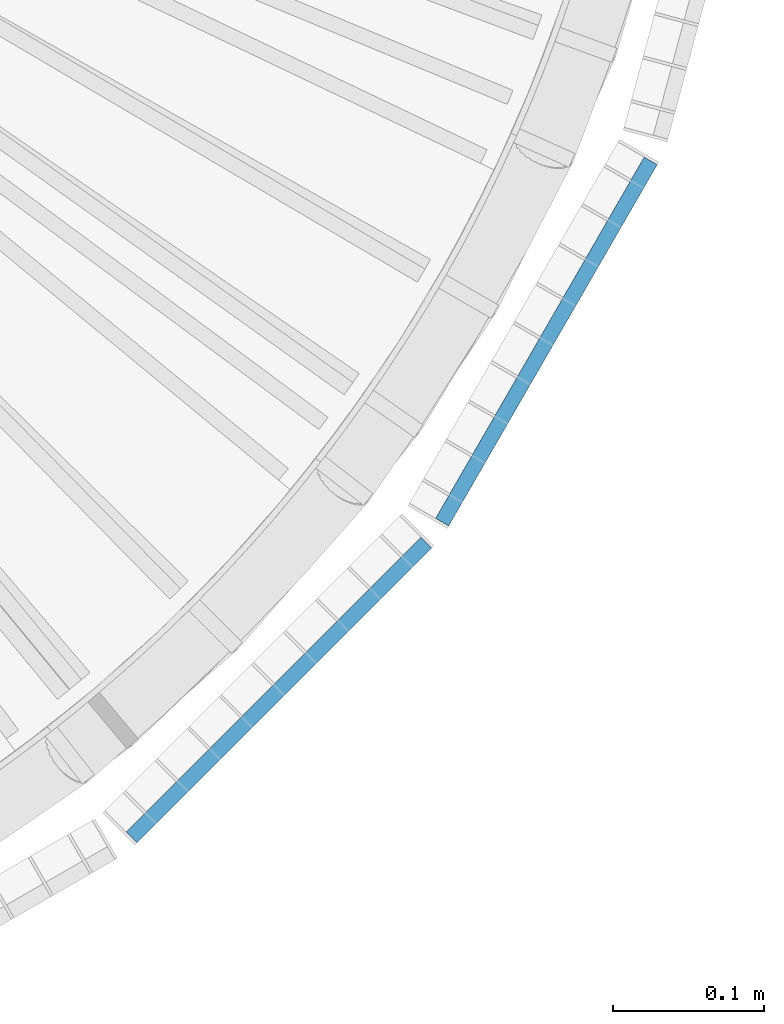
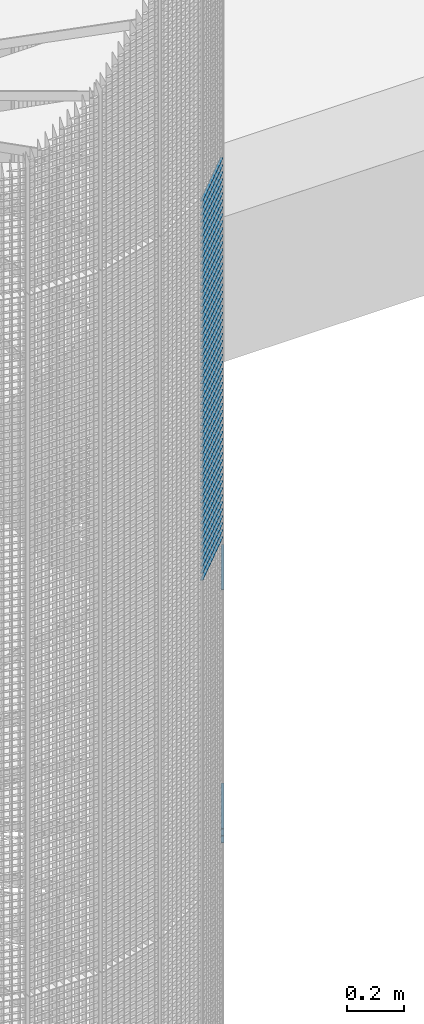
# One storey, part 243 of 1148: 59 beams, 2 elements without a shape of their own.
"""IFC2X3 building model written with IfcOpenShell, lengths in millimetres."""

from ifc_helpers import new_model, si_unit, frame, origin_with_axes, origin_2d_with_axis, place, context, subcontext, project, spatial, rectangle, extrude, material, type_object, element, aggregate, save


model = new_model("IFC2X3")

# Units and contexts
model_context = context("Model", 3, precision=1e-05, world=origin_with_axes())
body_context = subcontext(model_context, "Body", "Model", "MODEL_VIEW")
ifc_project = project(units=[si_unit("LENGTHUNIT", "METRE", prefix="MILLI"), si_unit("AREAUNIT", "SQUARE_METRE"), si_unit("VOLUMEUNIT", "CUBIC_METRE"), si_unit("MASSUNIT", "GRAM", prefix="KILO"), si_unit("TIMEUNIT", "SECOND"), si_unit("PLANEANGLEUNIT", "RADIAN"), si_unit("SOLIDANGLEUNIT", "STERADIAN"), si_unit("THERMODYNAMICTEMPERATUREUNIT", "DEGREE_CELSIUS"), si_unit("LUMINOUSINTENSITYUNIT", "LUMEN")], contexts=[model_context])

# Site, building, storey
site_placement = place(None, origin_with_axes())
site = spatial("IfcSite", under=ifc_project, at=site_placement, Name="Undefined", CompositionType="ELEMENT")
building_placement = place(site_placement, origin_with_axes())
building = spatial("IfcBuilding", under=site, at=building_placement, Name="Undefined", CompositionType="ELEMENT")
storey_placement = place(building_placement, origin_with_axes())
storey = spatial("IfcBuildingStorey", under=building, at=storey_placement, Name="Undefined", CompositionType="ELEMENT", Elevation=0.0)

# Assembly, beams
assembly_1_placement = place(storey_placement, origin_with_axes())
assembly_1 = element("IfcElementAssembly", 1, at=assembly_1_placement, inside=storey, Name="BORDURE", AssemblyPlace="NOTDEFINED", PredefinedType="NOTDEFINED")
ifc_material = material(Name="STEEL/S235JR")
beam_type = type_object("IfcBeamType", Name="PL2*10", PredefinedType="NOTDEFINED")
beam_1_placement = place(assembly_1_placement, frame((895.30396491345, -676.248044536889, 6090.0), z_axis=(0.866025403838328, -0.49999999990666, 0.0), x_axis=(0.49999999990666, 0.866025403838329, 0.0)))
beam_1 = element("IfcBeam", 2, at=beam_1_placement, type_object=beam_type, material=ifc_material, Name="ENTRETOISE", context=body_context, shape_type="SweptSolid", body=[
    extrude(rectangle(XDim=2.0, YDim=10.0, at=origin_2d_with_axis()), frame((275.999999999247, 9.09494701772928e-13, 1.53210777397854e-14), z_axis=(-1.0, 0.0, 0.0), x_axis=(0.0, -1.0, 0.0)), (0.0, 0.0, 1.0), 276.0),
])
beam_2_placement = place(assembly_1_placement, frame((895.30396491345, -676.248044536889, 6060.0), z_axis=(0.866025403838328, -0.49999999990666, 0.0), x_axis=(0.49999999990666, 0.866025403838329, 0.0)))
beam_2 = element("IfcBeam", 3, at=beam_2_placement, type_object=beam_type, material=ifc_material, Name="ENTRETOISE", context=body_context, shape_type="SweptSolid", body=[
    extrude(rectangle(XDim=2.0, YDim=10.0, at=origin_2d_with_axis()), frame((275.999999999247, 9.09494701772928e-13, 1.53210777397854e-14), z_axis=(-1.0, 0.0, 0.0), x_axis=(0.0, -1.0, 0.0)), (0.0, 0.0, 1.0), 276.0),
])
beam_3_placement = place(assembly_1_placement, frame((895.303964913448, -676.248044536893, 7110.0), z_axis=(0.866025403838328, -0.49999999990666, 0.0), x_axis=(0.49999999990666, 0.866025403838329, 0.0)))
beam_3 = element("IfcBeam", 4, at=beam_3_placement, type_object=beam_type, material=ifc_material, Name="ENTRETOISE", context=body_context, shape_type="SweptSolid", body=[
    extrude(rectangle(XDim=2.0, YDim=10.0, at=origin_2d_with_axis()), frame((275.999999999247, 9.09494701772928e-13, 1.53210777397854e-14), z_axis=(-1.0, 0.0, 0.0), x_axis=(0.0, -1.0, 0.0)), (0.0, 0.0, 1.0), 276.0),
])
beam_4_placement = place(assembly_1_placement, frame((895.30396491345, -676.248044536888, 6030.0), z_axis=(0.866025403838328, -0.49999999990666, 0.0), x_axis=(0.49999999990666, 0.866025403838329, 0.0)))
beam_4 = element("IfcBeam", 5, at=beam_4_placement, type_object=beam_type, material=ifc_material, Name="ENTRETOISE", context=body_context, shape_type="SweptSolid", body=[
    extrude(rectangle(XDim=2.0, YDim=10.0, at=origin_2d_with_axis()), frame((275.999999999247, 9.09494701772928e-13, 1.53210777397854e-14), z_axis=(-1.0, 0.0, 0.0), x_axis=(0.0, -1.0, 0.0)), (0.0, 0.0, 1.0), 276.0),
])
aggregate(assembly_1, [beam_1, beam_2, beam_3, beam_4])

assembly_2_placement = place(storey_placement, origin_with_axes())
assembly_2 = element("IfcElementAssembly", 6, at=assembly_2_placement, inside=storey, Name="BORDURE", AssemblyPlace="NOTDEFINED", PredefinedType="NOTDEFINED")
beam_5_placement = place(assembly_2_placement, frame((689.771348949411, -884.927168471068, 8970.0), z_axis=(0.707106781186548, -0.707106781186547, 0.0), x_axis=(0.707106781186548, 0.707106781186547, 0.0)))
beam_5 = element("IfcBeam", 7, at=beam_5_placement, type_object=beam_type, material=ifc_material, Name="ENTRETOISE", context=body_context, shape_type="SweptSolid", body=[
    extrude(rectangle(XDim=2.0, YDim=10.0, at=origin_2d_with_axis()), frame((275.999999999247, 9.09494701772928e-13, 1.53210777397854e-14), z_axis=(-1.0, 0.0, 0.0), x_axis=(0.0, -1.0, 0.0)), (0.0, 0.0, 1.0), 276.0),
])
beam_6_placement = place(assembly_2_placement, frame((689.771348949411, -884.927168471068, 8940.0), z_axis=(0.707106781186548, -0.707106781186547, 0.0), x_axis=(0.707106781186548, 0.707106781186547, 0.0)))
beam_6 = element("IfcBeam", 8, at=beam_6_placement, type_object=beam_type, material=ifc_material, Name="ENTRETOISE", context=body_context, shape_type="SweptSolid", body=[
    extrude(rectangle(XDim=2.0, YDim=10.0, at=origin_2d_with_axis()), frame((275.999999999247, 9.09494701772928e-13, 1.53210777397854e-14), z_axis=(-1.0, 0.0, 0.0), x_axis=(0.0, -1.0, 0.0)), (0.0, 0.0, 1.0), 276.0),
])
beam_7_placement = place(assembly_2_placement, frame((689.771348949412, -884.927168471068, 8910.0), z_axis=(0.707106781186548, -0.707106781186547, 0.0), x_axis=(0.707106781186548, 0.707106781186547, 0.0)))
beam_7 = element("IfcBeam", 9, at=beam_7_placement, type_object=beam_type, material=ifc_material, Name="ENTRETOISE", context=body_context, shape_type="SweptSolid", body=[
    extrude(rectangle(XDim=2.0, YDim=10.0, at=origin_2d_with_axis()), frame((275.999999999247, 9.09494701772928e-13, 1.53210777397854e-14), z_axis=(-1.0, 0.0, 0.0), x_axis=(0.0, -1.0, 0.0)), (0.0, 0.0, 1.0), 276.0),
])
beam_8_placement = place(assembly_2_placement, frame((689.771348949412, -884.927168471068, 8880.0), z_axis=(0.707106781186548, -0.707106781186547, 0.0), x_axis=(0.707106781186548, 0.707106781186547, 0.0)))
beam_8 = element("IfcBeam", 10, at=beam_8_placement, type_object=beam_type, material=ifc_material, Name="ENTRETOISE", context=body_context, shape_type="SweptSolid", body=[
    extrude(rectangle(XDim=2.0, YDim=10.0, at=origin_2d_with_axis()), frame((275.999999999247, 9.09494701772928e-13, 1.53210777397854e-14), z_axis=(-1.0, 0.0, 0.0), x_axis=(0.0, -1.0, 0.0)), (0.0, 0.0, 1.0), 276.0),
])
beam_9_placement = place(assembly_2_placement, frame((689.771348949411, -884.927168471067, 8850.0), z_axis=(0.707106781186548, -0.707106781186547, 0.0), x_axis=(0.707106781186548, 0.707106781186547, 0.0)))
beam_9 = element("IfcBeam", 11, at=beam_9_placement, type_object=beam_type, material=ifc_material, Name="ENTRETOISE", context=body_context, shape_type="SweptSolid", body=[
    extrude(rectangle(XDim=2.0, YDim=10.0, at=origin_2d_with_axis()), frame((275.999999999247, 9.09494701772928e-13, 1.53210777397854e-14), z_axis=(-1.0, 0.0, 0.0), x_axis=(0.0, -1.0, 0.0)), (0.0, 0.0, 1.0), 276.0),
])
beam_10_placement = place(assembly_2_placement, frame((689.771348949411, -884.927168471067, 8820.0), z_axis=(0.707106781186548, -0.707106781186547, 0.0), x_axis=(0.707106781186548, 0.707106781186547, 0.0)))
beam_10 = element("IfcBeam", 12, at=beam_10_placement, type_object=beam_type, material=ifc_material, Name="ENTRETOISE", context=body_context, shape_type="SweptSolid", body=[
    extrude(rectangle(XDim=2.0, YDim=10.0, at=origin_2d_with_axis()), frame((275.999999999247, 9.09494701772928e-13, 1.53210777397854e-14), z_axis=(-1.0, 0.0, 0.0), x_axis=(0.0, -1.0, 0.0)), (0.0, 0.0, 1.0), 276.0),
])
beam_11_placement = place(assembly_2_placement, frame((689.771348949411, -884.927168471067, 8790.0), z_axis=(0.707106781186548, -0.707106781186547, 0.0), x_axis=(0.707106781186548, 0.707106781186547, 0.0)))
beam_11 = element("IfcBeam", 13, at=beam_11_placement, type_object=beam_type, material=ifc_material, Name="ENTRETOISE", context=body_context, shape_type="SweptSolid", body=[
    extrude(rectangle(XDim=2.0, YDim=10.0, at=origin_2d_with_axis()), frame((275.999999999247, 9.09494701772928e-13, 1.53210777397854e-14), z_axis=(-1.0, 0.0, 0.0), x_axis=(0.0, -1.0, 0.0)), (0.0, 0.0, 1.0), 276.0),
])
beam_12_placement = place(assembly_2_placement, frame((689.771348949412, -884.927168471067, 8760.0), z_axis=(0.707106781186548, -0.707106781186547, 0.0), x_axis=(0.707106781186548, 0.707106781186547, 0.0)))
beam_12 = element("IfcBeam", 14, at=beam_12_placement, type_object=beam_type, material=ifc_material, Name="ENTRETOISE", context=body_context, shape_type="SweptSolid", body=[
    extrude(rectangle(XDim=2.0, YDim=10.0, at=origin_2d_with_axis()), frame((275.999999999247, 9.09494701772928e-13, 1.53210777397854e-14), z_axis=(-1.0, 0.0, 0.0), x_axis=(0.0, -1.0, 0.0)), (0.0, 0.0, 1.0), 276.0),
])
beam_13_placement = place(assembly_2_placement, frame((689.771348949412, -884.927168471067, 8730.0), z_axis=(0.707106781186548, -0.707106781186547, 0.0), x_axis=(0.707106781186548, 0.707106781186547, 0.0)))
beam_13 = element("IfcBeam", 15, at=beam_13_placement, type_object=beam_type, material=ifc_material, Name="ENTRETOISE", context=body_context, shape_type="SweptSolid", body=[
    extrude(rectangle(XDim=2.0, YDim=10.0, at=origin_2d_with_axis()), frame((275.999999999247, 9.09494701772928e-13, 1.53210777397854e-14), z_axis=(-1.0, 0.0, 0.0), x_axis=(0.0, -1.0, 0.0)), (0.0, 0.0, 1.0), 276.0),
])
beam_14_placement = place(assembly_2_placement, frame((689.771348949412, -884.927168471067, 8700.0), z_axis=(0.707106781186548, -0.707106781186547, 0.0), x_axis=(0.707106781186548, 0.707106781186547, 0.0)))
beam_14 = element("IfcBeam", 16, at=beam_14_placement, type_object=beam_type, material=ifc_material, Name="ENTRETOISE", context=body_context, shape_type="SweptSolid", body=[
    extrude(rectangle(XDim=2.0, YDim=10.0, at=origin_2d_with_axis()), frame((275.999999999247, 9.09494701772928e-13, 1.53210777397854e-14), z_axis=(-1.0, 0.0, 0.0), x_axis=(0.0, -1.0, 0.0)), (0.0, 0.0, 1.0), 276.0),
])
beam_15_placement = place(assembly_2_placement, frame((689.771348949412, -884.927168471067, 8670.0), z_axis=(0.707106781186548, -0.707106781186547, 0.0), x_axis=(0.707106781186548, 0.707106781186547, 0.0)))
beam_15 = element("IfcBeam", 17, at=beam_15_placement, type_object=beam_type, material=ifc_material, Name="ENTRETOISE", context=body_context, shape_type="SweptSolid", body=[
    extrude(rectangle(XDim=2.0, YDim=10.0, at=origin_2d_with_axis()), frame((275.999999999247, 9.09494701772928e-13, 1.53210777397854e-14), z_axis=(-1.0, 0.0, 0.0), x_axis=(0.0, -1.0, 0.0)), (0.0, 0.0, 1.0), 276.0),
])
beam_16_placement = place(assembly_2_placement, frame((689.771348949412, -884.927168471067, 8640.0), z_axis=(0.707106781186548, -0.707106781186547, 0.0), x_axis=(0.707106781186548, 0.707106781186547, 0.0)))
beam_16 = element("IfcBeam", 18, at=beam_16_placement, type_object=beam_type, material=ifc_material, Name="ENTRETOISE", context=body_context, shape_type="SweptSolid", body=[
    extrude(rectangle(XDim=2.0, YDim=10.0, at=origin_2d_with_axis()), frame((275.999999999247, 9.09494701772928e-13, 1.53210777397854e-14), z_axis=(-1.0, 0.0, 0.0), x_axis=(0.0, -1.0, 0.0)), (0.0, 0.0, 1.0), 276.0),
])
beam_17_placement = place(assembly_2_placement, frame((689.771348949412, -884.927168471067, 8610.0), z_axis=(0.707106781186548, -0.707106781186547, 0.0), x_axis=(0.707106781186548, 0.707106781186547, 0.0)))
beam_17 = element("IfcBeam", 19, at=beam_17_placement, type_object=beam_type, material=ifc_material, Name="ENTRETOISE", context=body_context, shape_type="SweptSolid", body=[
    extrude(rectangle(XDim=2.0, YDim=10.0, at=origin_2d_with_axis()), frame((275.999999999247, 9.09494701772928e-13, 1.53210777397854e-14), z_axis=(-1.0, 0.0, 0.0), x_axis=(0.0, -1.0, 0.0)), (0.0, 0.0, 1.0), 276.0),
])
beam_18_placement = place(assembly_2_placement, frame((689.771348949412, -884.927168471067, 8580.0), z_axis=(0.707106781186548, -0.707106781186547, 0.0), x_axis=(0.707106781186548, 0.707106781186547, 0.0)))
beam_18 = element("IfcBeam", 20, at=beam_18_placement, type_object=beam_type, material=ifc_material, Name="ENTRETOISE", context=body_context, shape_type="SweptSolid", body=[
    extrude(rectangle(XDim=2.0, YDim=10.0, at=origin_2d_with_axis()), frame((275.999999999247, 9.09494701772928e-13, 1.53210777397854e-14), z_axis=(-1.0, 0.0, 0.0), x_axis=(0.0, -1.0, 0.0)), (0.0, 0.0, 1.0), 276.0),
])
beam_19_placement = place(assembly_2_placement, frame((689.771348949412, -884.927168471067, 8550.0), z_axis=(0.707106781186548, -0.707106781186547, 0.0), x_axis=(0.707106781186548, 0.707106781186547, 0.0)))
beam_19 = element("IfcBeam", 21, at=beam_19_placement, type_object=beam_type, material=ifc_material, Name="ENTRETOISE", context=body_context, shape_type="SweptSolid", body=[
    extrude(rectangle(XDim=2.0, YDim=10.0, at=origin_2d_with_axis()), frame((275.999999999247, 9.09494701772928e-13, 1.53210777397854e-14), z_axis=(-1.0, 0.0, 0.0), x_axis=(0.0, -1.0, 0.0)), (0.0, 0.0, 1.0), 276.0),
])
beam_20_placement = place(assembly_2_placement, frame((689.771348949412, -884.927168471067, 8520.0), z_axis=(0.707106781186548, -0.707106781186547, 0.0), x_axis=(0.707106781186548, 0.707106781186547, 0.0)))
beam_20 = element("IfcBeam", 22, at=beam_20_placement, type_object=beam_type, material=ifc_material, Name="ENTRETOISE", context=body_context, shape_type="SweptSolid", body=[
    extrude(rectangle(XDim=2.0, YDim=10.0, at=origin_2d_with_axis()), frame((275.999999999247, 9.09494701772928e-13, 1.53210777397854e-14), z_axis=(-1.0, 0.0, 0.0), x_axis=(0.0, -1.0, 0.0)), (0.0, 0.0, 1.0), 276.0),
])
beam_21_placement = place(assembly_2_placement, frame((689.771348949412, -884.927168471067, 8490.0), z_axis=(0.707106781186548, -0.707106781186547, 0.0), x_axis=(0.707106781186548, 0.707106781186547, 0.0)))
beam_21 = element("IfcBeam", 23, at=beam_21_placement, type_object=beam_type, material=ifc_material, Name="ENTRETOISE", context=body_context, shape_type="SweptSolid", body=[
    extrude(rectangle(XDim=2.0, YDim=10.0, at=origin_2d_with_axis()), frame((275.999999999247, 9.09494701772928e-13, 1.53210777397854e-14), z_axis=(-1.0, 0.0, 0.0), x_axis=(0.0, -1.0, 0.0)), (0.0, 0.0, 1.0), 276.0),
])
beam_22_placement = place(assembly_2_placement, frame((689.771348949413, -884.927168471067, 8460.0), z_axis=(0.707106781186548, -0.707106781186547, 0.0), x_axis=(0.707106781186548, 0.707106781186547, 0.0)))
beam_22 = element("IfcBeam", 24, at=beam_22_placement, type_object=beam_type, material=ifc_material, Name="ENTRETOISE", context=body_context, shape_type="SweptSolid", body=[
    extrude(rectangle(XDim=2.0, YDim=10.0, at=origin_2d_with_axis()), frame((275.999999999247, 9.09494701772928e-13, 1.53210777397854e-14), z_axis=(-1.0, 0.0, 0.0), x_axis=(0.0, -1.0, 0.0)), (0.0, 0.0, 1.0), 276.0),
])
beam_23_placement = place(assembly_2_placement, frame((689.771348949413, -884.927168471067, 8430.0), z_axis=(0.707106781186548, -0.707106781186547, 0.0), x_axis=(0.707106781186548, 0.707106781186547, 0.0)))
beam_23 = element("IfcBeam", 25, at=beam_23_placement, type_object=beam_type, material=ifc_material, Name="ENTRETOISE", context=body_context, shape_type="SweptSolid", body=[
    extrude(rectangle(XDim=2.0, YDim=10.0, at=origin_2d_with_axis()), frame((275.999999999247, 9.09494701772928e-13, 1.53210777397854e-14), z_axis=(-1.0, 0.0, 0.0), x_axis=(0.0, -1.0, 0.0)), (0.0, 0.0, 1.0), 276.0),
])
beam_24_placement = place(assembly_2_placement, frame((689.771348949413, -884.927168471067, 8400.0), z_axis=(0.707106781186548, -0.707106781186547, 0.0), x_axis=(0.707106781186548, 0.707106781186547, 0.0)))
beam_24 = element("IfcBeam", 26, at=beam_24_placement, type_object=beam_type, material=ifc_material, Name="ENTRETOISE", context=body_context, shape_type="SweptSolid", body=[
    extrude(rectangle(XDim=2.0, YDim=10.0, at=origin_2d_with_axis()), frame((275.999999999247, 9.09494701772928e-13, 1.53210777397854e-14), z_axis=(-1.0, 0.0, 0.0), x_axis=(0.0, -1.0, 0.0)), (0.0, 0.0, 1.0), 276.0),
])
beam_25_placement = place(assembly_2_placement, frame((689.771348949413, -884.927168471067, 8370.0), z_axis=(0.707106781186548, -0.707106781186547, 0.0), x_axis=(0.707106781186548, 0.707106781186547, 0.0)))
beam_25 = element("IfcBeam", 27, at=beam_25_placement, type_object=beam_type, material=ifc_material, Name="ENTRETOISE", context=body_context, shape_type="SweptSolid", body=[
    extrude(rectangle(XDim=2.0, YDim=10.0, at=origin_2d_with_axis()), frame((275.999999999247, 9.09494701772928e-13, 1.53210777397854e-14), z_axis=(-1.0, 0.0, 0.0), x_axis=(0.0, -1.0, 0.0)), (0.0, 0.0, 1.0), 276.0),
])
beam_26_placement = place(assembly_2_placement, frame((689.771348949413, -884.927168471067, 8340.0), z_axis=(0.707106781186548, -0.707106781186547, 0.0), x_axis=(0.707106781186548, 0.707106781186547, 0.0)))
beam_26 = element("IfcBeam", 28, at=beam_26_placement, type_object=beam_type, material=ifc_material, Name="ENTRETOISE", context=body_context, shape_type="SweptSolid", body=[
    extrude(rectangle(XDim=2.0, YDim=10.0, at=origin_2d_with_axis()), frame((275.999999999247, 9.09494701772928e-13, 1.53210777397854e-14), z_axis=(-1.0, 0.0, 0.0), x_axis=(0.0, -1.0, 0.0)), (0.0, 0.0, 1.0), 276.0),
])
beam_27_placement = place(assembly_2_placement, frame((689.771348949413, -884.927168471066, 8310.0), z_axis=(0.707106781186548, -0.707106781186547, 0.0), x_axis=(0.707106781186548, 0.707106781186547, 0.0)))
beam_27 = element("IfcBeam", 29, at=beam_27_placement, type_object=beam_type, material=ifc_material, Name="ENTRETOISE", context=body_context, shape_type="SweptSolid", body=[
    extrude(rectangle(XDim=2.0, YDim=10.0, at=origin_2d_with_axis()), frame((275.999999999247, 9.09494701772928e-13, 1.53210777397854e-14), z_axis=(-1.0, 0.0, 0.0), x_axis=(0.0, -1.0, 0.0)), (0.0, 0.0, 1.0), 276.0),
])
beam_28_placement = place(assembly_2_placement, frame((689.771348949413, -884.927168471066, 8280.0), z_axis=(0.707106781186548, -0.707106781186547, 0.0), x_axis=(0.707106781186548, 0.707106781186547, 0.0)))
beam_28 = element("IfcBeam", 30, at=beam_28_placement, type_object=beam_type, material=ifc_material, Name="ENTRETOISE", context=body_context, shape_type="SweptSolid", body=[
    extrude(rectangle(XDim=2.0, YDim=10.0, at=origin_2d_with_axis()), frame((275.999999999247, 9.09494701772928e-13, 1.53210777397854e-14), z_axis=(-1.0, 0.0, 0.0), x_axis=(0.0, -1.0, 0.0)), (0.0, 0.0, 1.0), 276.0),
])
beam_29_placement = place(assembly_2_placement, frame((689.771348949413, -884.927168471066, 8250.0), z_axis=(0.707106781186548, -0.707106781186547, 0.0), x_axis=(0.707106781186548, 0.707106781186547, 0.0)))
beam_29 = element("IfcBeam", 31, at=beam_29_placement, type_object=beam_type, material=ifc_material, Name="ENTRETOISE", context=body_context, shape_type="SweptSolid", body=[
    extrude(rectangle(XDim=2.0, YDim=10.0, at=origin_2d_with_axis()), frame((275.999999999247, 9.09494701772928e-13, 1.53210777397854e-14), z_axis=(-1.0, 0.0, 0.0), x_axis=(0.0, -1.0, 0.0)), (0.0, 0.0, 1.0), 276.0),
])
beam_30_placement = place(assembly_2_placement, frame((689.771348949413, -884.927168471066, 8220.0), z_axis=(0.707106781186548, -0.707106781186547, 0.0), x_axis=(0.707106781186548, 0.707106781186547, 0.0)))
beam_30 = element("IfcBeam", 32, at=beam_30_placement, type_object=beam_type, material=ifc_material, Name="ENTRETOISE", context=body_context, shape_type="SweptSolid", body=[
    extrude(rectangle(XDim=2.0, YDim=10.0, at=origin_2d_with_axis()), frame((275.999999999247, 9.09494701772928e-13, 1.53210777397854e-14), z_axis=(-1.0, 0.0, 0.0), x_axis=(0.0, -1.0, 0.0)), (0.0, 0.0, 1.0), 276.0),
])
beam_31_placement = place(assembly_2_placement, frame((689.771348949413, -884.927168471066, 8190.0), z_axis=(0.707106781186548, -0.707106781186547, 0.0), x_axis=(0.707106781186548, 0.707106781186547, 0.0)))
beam_31 = element("IfcBeam", 33, at=beam_31_placement, type_object=beam_type, material=ifc_material, Name="ENTRETOISE", context=body_context, shape_type="SweptSolid", body=[
    extrude(rectangle(XDim=2.0, YDim=10.0, at=origin_2d_with_axis()), frame((275.999999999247, 9.09494701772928e-13, 1.53210777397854e-14), z_axis=(-1.0, 0.0, 0.0), x_axis=(0.0, -1.0, 0.0)), (0.0, 0.0, 1.0), 276.0),
])
beam_32_placement = place(assembly_2_placement, frame((689.771348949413, -884.927168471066, 8160.0), z_axis=(0.707106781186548, -0.707106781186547, 0.0), x_axis=(0.707106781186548, 0.707106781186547, 0.0)))
beam_32 = element("IfcBeam", 34, at=beam_32_placement, type_object=beam_type, material=ifc_material, Name="ENTRETOISE", context=body_context, shape_type="SweptSolid", body=[
    extrude(rectangle(XDim=2.0, YDim=10.0, at=origin_2d_with_axis()), frame((275.999999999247, 9.09494701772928e-13, 1.53210777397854e-14), z_axis=(-1.0, 0.0, 0.0), x_axis=(0.0, -1.0, 0.0)), (0.0, 0.0, 1.0), 276.0),
])
beam_33_placement = place(assembly_2_placement, frame((689.771348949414, -884.927168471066, 8130.0), z_axis=(0.707106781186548, -0.707106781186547, 0.0), x_axis=(0.707106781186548, 0.707106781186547, 0.0)))
beam_33 = element("IfcBeam", 35, at=beam_33_placement, type_object=beam_type, material=ifc_material, Name="ENTRETOISE", context=body_context, shape_type="SweptSolid", body=[
    extrude(rectangle(XDim=2.0, YDim=10.0, at=origin_2d_with_axis()), frame((275.999999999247, 9.09494701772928e-13, 1.53210777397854e-14), z_axis=(-1.0, 0.0, 0.0), x_axis=(0.0, -1.0, 0.0)), (0.0, 0.0, 1.0), 276.0),
])
beam_34_placement = place(assembly_2_placement, frame((689.771348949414, -884.927168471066, 8100.0), z_axis=(0.707106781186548, -0.707106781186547, 0.0), x_axis=(0.707106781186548, 0.707106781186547, 0.0)))
beam_34 = element("IfcBeam", 36, at=beam_34_placement, type_object=beam_type, material=ifc_material, Name="ENTRETOISE", context=body_context, shape_type="SweptSolid", body=[
    extrude(rectangle(XDim=2.0, YDim=10.0, at=origin_2d_with_axis()), frame((275.999999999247, 9.09494701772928e-13, 1.53210777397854e-14), z_axis=(-1.0, 0.0, 0.0), x_axis=(0.0, -1.0, 0.0)), (0.0, 0.0, 1.0), 276.0),
])
beam_35_placement = place(assembly_2_placement, frame((689.771348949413, -884.927168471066, 8070.0), z_axis=(0.707106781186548, -0.707106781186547, 0.0), x_axis=(0.707106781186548, 0.707106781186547, 0.0)))
beam_35 = element("IfcBeam", 37, at=beam_35_placement, type_object=beam_type, material=ifc_material, Name="ENTRETOISE", context=body_context, shape_type="SweptSolid", body=[
    extrude(rectangle(XDim=2.0, YDim=10.0, at=origin_2d_with_axis()), frame((275.999999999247, 9.09494701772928e-13, 1.53210777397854e-14), z_axis=(-1.0, 0.0, 0.0), x_axis=(0.0, -1.0, 0.0)), (0.0, 0.0, 1.0), 276.0),
])
beam_36_placement = place(assembly_2_placement, frame((689.771348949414, -884.927168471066, 8040.0), z_axis=(0.707106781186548, -0.707106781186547, 0.0), x_axis=(0.707106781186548, 0.707106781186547, 0.0)))
beam_36 = element("IfcBeam", 38, at=beam_36_placement, type_object=beam_type, material=ifc_material, Name="ENTRETOISE", context=body_context, shape_type="SweptSolid", body=[
    extrude(rectangle(XDim=2.0, YDim=10.0, at=origin_2d_with_axis()), frame((275.999999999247, 9.09494701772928e-13, 1.53210777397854e-14), z_axis=(-1.0, 0.0, 0.0), x_axis=(0.0, -1.0, 0.0)), (0.0, 0.0, 1.0), 276.0),
])
beam_37_placement = place(assembly_2_placement, frame((689.771348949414, -884.927168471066, 8010.0), z_axis=(0.707106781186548, -0.707106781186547, 0.0), x_axis=(0.707106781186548, 0.707106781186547, 0.0)))
beam_37 = element("IfcBeam", 39, at=beam_37_placement, type_object=beam_type, material=ifc_material, Name="ENTRETOISE", context=body_context, shape_type="SweptSolid", body=[
    extrude(rectangle(XDim=2.0, YDim=10.0, at=origin_2d_with_axis()), frame((275.999999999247, 9.09494701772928e-13, 1.53210777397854e-14), z_axis=(-1.0, 0.0, 0.0), x_axis=(0.0, -1.0, 0.0)), (0.0, 0.0, 1.0), 276.0),
])
beam_38_placement = place(assembly_2_placement, frame((689.771348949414, -884.927168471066, 7980.0), z_axis=(0.707106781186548, -0.707106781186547, 0.0), x_axis=(0.707106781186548, 0.707106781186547, 0.0)))
beam_38 = element("IfcBeam", 40, at=beam_38_placement, type_object=beam_type, material=ifc_material, Name="ENTRETOISE", context=body_context, shape_type="SweptSolid", body=[
    extrude(rectangle(XDim=2.0, YDim=10.0, at=origin_2d_with_axis()), frame((275.999999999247, 9.09494701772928e-13, 1.53210777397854e-14), z_axis=(-1.0, 0.0, 0.0), x_axis=(0.0, -1.0, 0.0)), (0.0, 0.0, 1.0), 276.0),
])
beam_39_placement = place(assembly_2_placement, frame((689.771348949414, -884.927168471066, 7950.0), z_axis=(0.707106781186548, -0.707106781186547, 0.0), x_axis=(0.707106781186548, 0.707106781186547, 0.0)))
beam_39 = element("IfcBeam", 41, at=beam_39_placement, type_object=beam_type, material=ifc_material, Name="ENTRETOISE", context=body_context, shape_type="SweptSolid", body=[
    extrude(rectangle(XDim=2.0, YDim=10.0, at=origin_2d_with_axis()), frame((275.999999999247, 9.09494701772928e-13, 1.53210777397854e-14), z_axis=(-1.0, 0.0, 0.0), x_axis=(0.0, -1.0, 0.0)), (0.0, 0.0, 1.0), 276.0),
])
beam_40_placement = place(assembly_2_placement, frame((689.771348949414, -884.927168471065, 7920.0), z_axis=(0.707106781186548, -0.707106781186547, 0.0), x_axis=(0.707106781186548, 0.707106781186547, 0.0)))
beam_40 = element("IfcBeam", 42, at=beam_40_placement, type_object=beam_type, material=ifc_material, Name="ENTRETOISE", context=body_context, shape_type="SweptSolid", body=[
    extrude(rectangle(XDim=2.0, YDim=10.0, at=origin_2d_with_axis()), frame((275.999999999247, 9.09494701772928e-13, 1.53210777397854e-14), z_axis=(-1.0, 0.0, 0.0), x_axis=(0.0, -1.0, 0.0)), (0.0, 0.0, 1.0), 276.0),
])
beam_41_placement = place(assembly_2_placement, frame((689.771348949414, -884.927168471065, 7890.0), z_axis=(0.707106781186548, -0.707106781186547, 0.0), x_axis=(0.707106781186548, 0.707106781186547, 0.0)))
beam_41 = element("IfcBeam", 43, at=beam_41_placement, type_object=beam_type, material=ifc_material, Name="ENTRETOISE", context=body_context, shape_type="SweptSolid", body=[
    extrude(rectangle(XDim=2.0, YDim=10.0, at=origin_2d_with_axis()), frame((275.999999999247, 9.09494701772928e-13, 1.53210777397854e-14), z_axis=(-1.0, 0.0, 0.0), x_axis=(0.0, -1.0, 0.0)), (0.0, 0.0, 1.0), 276.0),
])
beam_42_placement = place(assembly_2_placement, frame((689.771348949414, -884.927168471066, 7860.0), z_axis=(0.707106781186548, -0.707106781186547, 0.0), x_axis=(0.707106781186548, 0.707106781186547, 0.0)))
beam_42 = element("IfcBeam", 44, at=beam_42_placement, type_object=beam_type, material=ifc_material, Name="ENTRETOISE", context=body_context, shape_type="SweptSolid", body=[
    extrude(rectangle(XDim=2.0, YDim=10.0, at=origin_2d_with_axis()), frame((275.999999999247, 9.09494701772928e-13, 1.53210777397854e-14), z_axis=(-1.0, 0.0, 0.0), x_axis=(0.0, -1.0, 0.0)), (0.0, 0.0, 1.0), 276.0),
])
beam_43_placement = place(assembly_2_placement, frame((689.771348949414, -884.927168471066, 7830.0), z_axis=(0.707106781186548, -0.707106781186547, 0.0), x_axis=(0.707106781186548, 0.707106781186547, 0.0)))
beam_43 = element("IfcBeam", 45, at=beam_43_placement, type_object=beam_type, material=ifc_material, Name="ENTRETOISE", context=body_context, shape_type="SweptSolid", body=[
    extrude(rectangle(XDim=2.0, YDim=10.0, at=origin_2d_with_axis()), frame((275.999999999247, 9.09494701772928e-13, 1.53210777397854e-14), z_axis=(-1.0, 0.0, 0.0), x_axis=(0.0, -1.0, 0.0)), (0.0, 0.0, 1.0), 276.0),
])
beam_44_placement = place(assembly_2_placement, frame((689.771348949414, -884.927168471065, 7800.0), z_axis=(0.707106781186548, -0.707106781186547, 0.0), x_axis=(0.707106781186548, 0.707106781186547, 0.0)))
beam_44 = element("IfcBeam", 46, at=beam_44_placement, type_object=beam_type, material=ifc_material, Name="ENTRETOISE", context=body_context, shape_type="SweptSolid", body=[
    extrude(rectangle(XDim=2.0, YDim=10.0, at=origin_2d_with_axis()), frame((275.999999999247, 9.09494701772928e-13, 1.53210777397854e-14), z_axis=(-1.0, 0.0, 0.0), x_axis=(0.0, -1.0, 0.0)), (0.0, 0.0, 1.0), 276.0),
])
beam_45_placement = place(assembly_2_placement, frame((689.771348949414, -884.927168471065, 7770.0), z_axis=(0.707106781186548, -0.707106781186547, 0.0), x_axis=(0.707106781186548, 0.707106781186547, 0.0)))
beam_45 = element("IfcBeam", 47, at=beam_45_placement, type_object=beam_type, material=ifc_material, Name="ENTRETOISE", context=body_context, shape_type="SweptSolid", body=[
    extrude(rectangle(XDim=2.0, YDim=10.0, at=origin_2d_with_axis()), frame((275.999999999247, 9.09494701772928e-13, 1.53210777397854e-14), z_axis=(-1.0, 0.0, 0.0), x_axis=(0.0, -1.0, 0.0)), (0.0, 0.0, 1.0), 276.0),
])
beam_46_placement = place(assembly_2_placement, frame((689.771348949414, -884.927168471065, 7740.0), z_axis=(0.707106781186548, -0.707106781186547, 0.0), x_axis=(0.707106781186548, 0.707106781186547, 0.0)))
beam_46 = element("IfcBeam", 48, at=beam_46_placement, type_object=beam_type, material=ifc_material, Name="ENTRETOISE", context=body_context, shape_type="SweptSolid", body=[
    extrude(rectangle(XDim=2.0, YDim=10.0, at=origin_2d_with_axis()), frame((275.999999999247, 9.09494701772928e-13, 1.53210777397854e-14), z_axis=(-1.0, 0.0, 0.0), x_axis=(0.0, -1.0, 0.0)), (0.0, 0.0, 1.0), 276.0),
])
beam_47_placement = place(assembly_2_placement, frame((689.771348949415, -884.927168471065, 7710.0), z_axis=(0.707106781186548, -0.707106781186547, 0.0), x_axis=(0.707106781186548, 0.707106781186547, 0.0)))
beam_47 = element("IfcBeam", 49, at=beam_47_placement, type_object=beam_type, material=ifc_material, Name="ENTRETOISE", context=body_context, shape_type="SweptSolid", body=[
    extrude(rectangle(XDim=2.0, YDim=10.0, at=origin_2d_with_axis()), frame((275.999999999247, 9.09494701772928e-13, 1.53210777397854e-14), z_axis=(-1.0, 0.0, 0.0), x_axis=(0.0, -1.0, 0.0)), (0.0, 0.0, 1.0), 276.0),
])
beam_48_placement = place(assembly_2_placement, frame((689.771348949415, -884.927168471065, 7680.0), z_axis=(0.707106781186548, -0.707106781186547, 0.0), x_axis=(0.707106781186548, 0.707106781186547, 0.0)))
beam_48 = element("IfcBeam", 50, at=beam_48_placement, type_object=beam_type, material=ifc_material, Name="ENTRETOISE", context=body_context, shape_type="SweptSolid", body=[
    extrude(rectangle(XDim=2.0, YDim=10.0, at=origin_2d_with_axis()), frame((275.999999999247, 9.09494701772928e-13, 1.53210777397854e-14), z_axis=(-1.0, 0.0, 0.0), x_axis=(0.0, -1.0, 0.0)), (0.0, 0.0, 1.0), 276.0),
])
beam_49_placement = place(assembly_2_placement, frame((689.771348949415, -884.927168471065, 7650.0), z_axis=(0.707106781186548, -0.707106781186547, 0.0), x_axis=(0.707106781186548, 0.707106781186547, 0.0)))
beam_49 = element("IfcBeam", 51, at=beam_49_placement, type_object=beam_type, material=ifc_material, Name="ENTRETOISE", context=body_context, shape_type="SweptSolid", body=[
    extrude(rectangle(XDim=2.0, YDim=10.0, at=origin_2d_with_axis()), frame((275.999999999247, 9.09494701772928e-13, 1.53210777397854e-14), z_axis=(-1.0, 0.0, 0.0), x_axis=(0.0, -1.0, 0.0)), (0.0, 0.0, 1.0), 276.0),
])
beam_50_placement = place(assembly_2_placement, frame((689.771348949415, -884.927168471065, 7620.0), z_axis=(0.707106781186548, -0.707106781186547, 0.0), x_axis=(0.707106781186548, 0.707106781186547, 0.0)))
beam_50 = element("IfcBeam", 52, at=beam_50_placement, type_object=beam_type, material=ifc_material, Name="ENTRETOISE", context=body_context, shape_type="SweptSolid", body=[
    extrude(rectangle(XDim=2.0, YDim=10.0, at=origin_2d_with_axis()), frame((275.999999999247, 9.09494701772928e-13, 1.53210777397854e-14), z_axis=(-1.0, 0.0, 0.0), x_axis=(0.0, -1.0, 0.0)), (0.0, 0.0, 1.0), 276.0),
])
beam_51_placement = place(assembly_2_placement, frame((689.771348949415, -884.927168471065, 7590.0), z_axis=(0.707106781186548, -0.707106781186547, 0.0), x_axis=(0.707106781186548, 0.707106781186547, 0.0)))
beam_51 = element("IfcBeam", 53, at=beam_51_placement, type_object=beam_type, material=ifc_material, Name="ENTRETOISE", context=body_context, shape_type="SweptSolid", body=[
    extrude(rectangle(XDim=2.0, YDim=10.0, at=origin_2d_with_axis()), frame((275.999999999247, 9.09494701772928e-13, 1.53210777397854e-14), z_axis=(-1.0, 0.0, 0.0), x_axis=(0.0, -1.0, 0.0)), (0.0, 0.0, 1.0), 276.0),
])
beam_52_placement = place(assembly_2_placement, frame((689.771348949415, -884.927168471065, 7560.0), z_axis=(0.707106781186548, -0.707106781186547, 0.0), x_axis=(0.707106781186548, 0.707106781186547, 0.0)))
beam_52 = element("IfcBeam", 54, at=beam_52_placement, type_object=beam_type, material=ifc_material, Name="ENTRETOISE", context=body_context, shape_type="SweptSolid", body=[
    extrude(rectangle(XDim=2.0, YDim=10.0, at=origin_2d_with_axis()), frame((275.999999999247, 9.09494701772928e-13, 1.53210777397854e-14), z_axis=(-1.0, 0.0, 0.0), x_axis=(0.0, -1.0, 0.0)), (0.0, 0.0, 1.0), 276.0),
])
beam_53_placement = place(assembly_2_placement, frame((689.771348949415, -884.927168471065, 7530.0), z_axis=(0.707106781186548, -0.707106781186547, 0.0), x_axis=(0.707106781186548, 0.707106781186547, 0.0)))
beam_53 = element("IfcBeam", 55, at=beam_53_placement, type_object=beam_type, material=ifc_material, Name="ENTRETOISE", context=body_context, shape_type="SweptSolid", body=[
    extrude(rectangle(XDim=2.0, YDim=10.0, at=origin_2d_with_axis()), frame((275.999999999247, 9.09494701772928e-13, 1.53210777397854e-14), z_axis=(-1.0, 0.0, 0.0), x_axis=(0.0, -1.0, 0.0)), (0.0, 0.0, 1.0), 276.0),
])
beam_54_placement = place(assembly_2_placement, frame((689.771348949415, -884.927168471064, 7500.0), z_axis=(0.707106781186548, -0.707106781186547, 0.0), x_axis=(0.707106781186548, 0.707106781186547, 0.0)))
beam_54 = element("IfcBeam", 56, at=beam_54_placement, type_object=beam_type, material=ifc_material, Name="ENTRETOISE", context=body_context, shape_type="SweptSolid", body=[
    extrude(rectangle(XDim=2.0, YDim=10.0, at=origin_2d_with_axis()), frame((275.999999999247, 9.09494701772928e-13, 1.53210777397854e-14), z_axis=(-1.0, 0.0, 0.0), x_axis=(0.0, -1.0, 0.0)), (0.0, 0.0, 1.0), 276.0),
])
beam_55_placement = place(assembly_2_placement, frame((689.771348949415, -884.927168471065, 7470.0), z_axis=(0.707106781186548, -0.707106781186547, 0.0), x_axis=(0.707106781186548, 0.707106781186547, 0.0)))
beam_55 = element("IfcBeam", 57, at=beam_55_placement, type_object=beam_type, material=ifc_material, Name="ENTRETOISE", context=body_context, shape_type="SweptSolid", body=[
    extrude(rectangle(XDim=2.0, YDim=10.0, at=origin_2d_with_axis()), frame((275.999999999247, 9.09494701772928e-13, 1.53210777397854e-14), z_axis=(-1.0, 0.0, 0.0), x_axis=(0.0, -1.0, 0.0)), (0.0, 0.0, 1.0), 276.0),
])
beam_56_placement = place(assembly_2_placement, frame((689.771348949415, -884.927168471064, 7440.0), z_axis=(0.707106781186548, -0.707106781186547, 0.0), x_axis=(0.707106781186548, 0.707106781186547, 0.0)))
beam_56 = element("IfcBeam", 58, at=beam_56_placement, type_object=beam_type, material=ifc_material, Name="ENTRETOISE", context=body_context, shape_type="SweptSolid", body=[
    extrude(rectangle(XDim=2.0, YDim=10.0, at=origin_2d_with_axis()), frame((275.999999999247, 9.09494701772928e-13, 1.53210777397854e-14), z_axis=(-1.0, 0.0, 0.0), x_axis=(0.0, -1.0, 0.0)), (0.0, 0.0, 1.0), 276.0),
])
beam_57_placement = place(assembly_2_placement, frame((689.771348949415, -884.927168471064, 7410.0), z_axis=(0.707106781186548, -0.707106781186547, 0.0), x_axis=(0.707106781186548, 0.707106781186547, 0.0)))
beam_57 = element("IfcBeam", 59, at=beam_57_placement, type_object=beam_type, material=ifc_material, Name="ENTRETOISE", context=body_context, shape_type="SweptSolid", body=[
    extrude(rectangle(XDim=2.0, YDim=10.0, at=origin_2d_with_axis()), frame((275.999999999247, 9.09494701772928e-13, 1.53210777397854e-14), z_axis=(-1.0, 0.0, 0.0), x_axis=(0.0, -1.0, 0.0)), (0.0, 0.0, 1.0), 276.0),
])
beam_58_placement = place(assembly_2_placement, frame((689.771348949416, -884.927168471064, 7380.0), z_axis=(0.707106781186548, -0.707106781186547, 0.0), x_axis=(0.707106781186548, 0.707106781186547, 0.0)))
beam_58 = element("IfcBeam", 60, at=beam_58_placement, type_object=beam_type, material=ifc_material, Name="ENTRETOISE", context=body_context, shape_type="SweptSolid", body=[
    extrude(rectangle(XDim=2.0, YDim=10.0, at=origin_2d_with_axis()), frame((275.999999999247, 9.09494701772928e-13, 1.53210777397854e-14), z_axis=(-1.0, 0.0, 0.0), x_axis=(0.0, -1.0, 0.0)), (0.0, 0.0, 1.0), 276.0),
])
beam_59_placement = place(assembly_2_placement, frame((689.771348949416, -884.927168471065, 7350.0), z_axis=(0.707106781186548, -0.707106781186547, 0.0), x_axis=(0.707106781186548, 0.707106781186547, 0.0)))
beam_59 = element("IfcBeam", 61, at=beam_59_placement, type_object=beam_type, material=ifc_material, Name="ENTRETOISE", context=body_context, shape_type="SweptSolid", body=[
    extrude(rectangle(XDim=2.0, YDim=10.0, at=origin_2d_with_axis()), frame((275.999999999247, 9.09494701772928e-13, 1.53210777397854e-14), z_axis=(-1.0, 0.0, 0.0), x_axis=(0.0, -1.0, 0.0)), (0.0, 0.0, 1.0), 276.0),
])
aggregate(assembly_2, [beam_5, beam_6, beam_7, beam_8, beam_9, beam_10, beam_11, beam_12, beam_13, beam_14, beam_15, beam_16, beam_17, beam_18, beam_19, beam_20, beam_21, beam_22, beam_23, beam_24, beam_25, beam_26, beam_27, beam_28, beam_29, beam_30, beam_31, beam_32, beam_33, beam_34, beam_35, beam_36, beam_37, beam_38, beam_39, beam_40, beam_41, beam_42, beam_43, beam_44, beam_45, beam_46, beam_47, beam_48, beam_49, beam_50, beam_51, beam_52, beam_53, beam_54, beam_55, beam_56, beam_57, beam_58, beam_59])

save(model, "model.ifc")
